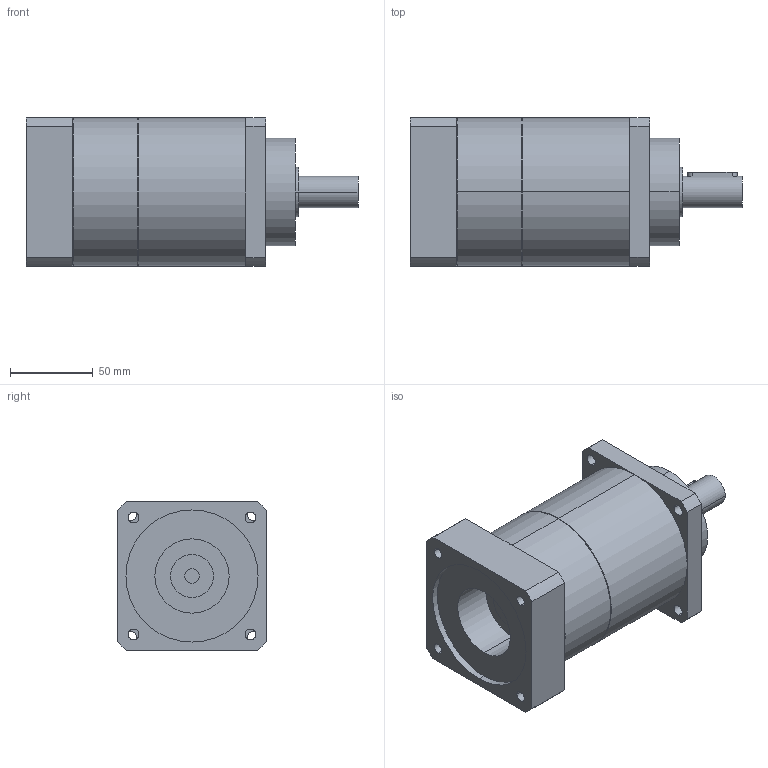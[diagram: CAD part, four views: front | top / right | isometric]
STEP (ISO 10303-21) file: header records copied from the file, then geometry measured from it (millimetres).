
FILE_DESCRIPTION(('CoCreate Modeling STEP Export'),'2;1');
FILE_NAME('GPT90_ig-9-12-16-20-25-28-35-40-50-70-100_19_B5T_9_P28.stp','2015-02-04T11:33:59',(''),(''),'CoCreate Modeling STEP processor for AP214 (Solid Model)','CoCreate Modeling 16.00C 25-Feb-2009 (C) Parametric Technology GmbH','');
FILE_SCHEMA(('AUTOMOTIVE_DESIGN { 1 0 10303 214 1 1 1 1 }'));
Length unit declared in the file: millimetre
Products named in the file (2): GPT90_ig-9-12-16-20-25-28-35-40-50-70-100_19_B5T_9_P28
Assembly tree (1 placements, depth 2):
  GPT90_ig-9-12-16-20-25-28-35-40-50-70-100_19_B5T_9_P28
    GPT90_ig-9-12-16-20-25-28-35-40-50-70-100_19_B5T_9_P28
Bounding box: 201 x 90 x 90 mm (x, y, z)
Volume: 996627.2 mm3; surface area: 78355.9 mm2
Topology: 1 solids, 1 shells, 77 faces, 206 edges, 141 vertices
Faces by surface type: cylinder 46, plane 27, cone 4
Entity records: 2596 total; most frequent: CARTESIAN_POINT 742, ORIENTED_EDGE 412, DIRECTION 324, EDGE_CURVE 206, VERTEX_POINT 141, AXIS2_PLACEMENT_3D 120, EDGE_LOOP 103, VECTOR 84
